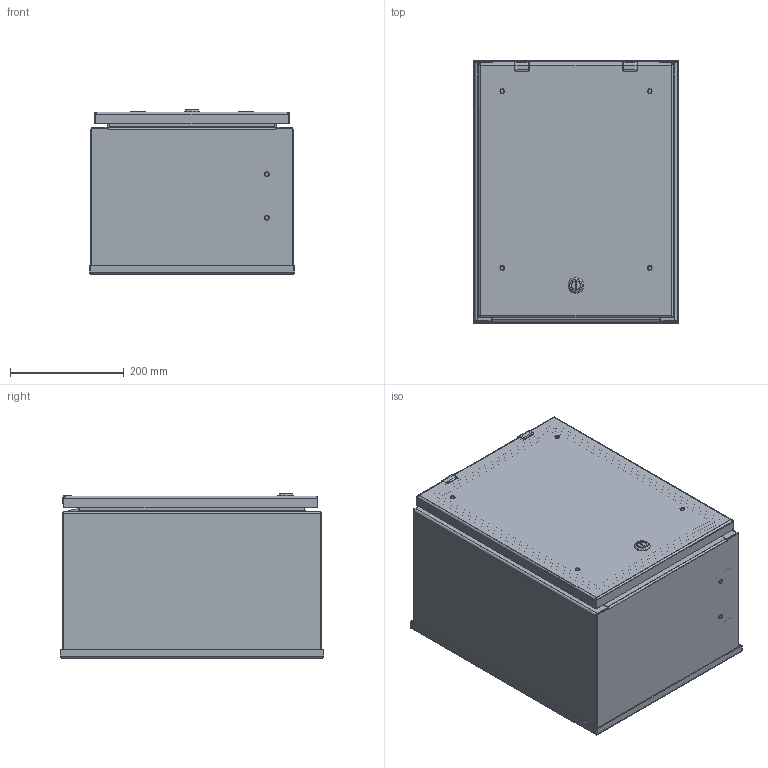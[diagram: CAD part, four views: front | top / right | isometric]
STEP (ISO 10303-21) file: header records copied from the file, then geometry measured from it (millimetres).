
FILE_DESCRIPTION((''),'2;1');
FILE_NAME('MODEL-364_ASM','2026-08-24T16:07:37',('richards'),('SAGINAW CONTROL & ENGINEERING'),'CREO PARAMETRIC BY PTC INC, 2021284','CREO PARAMETRIC BY PTC INC, 2021284','');
FILE_SCHEMA(('AUTOMOTIVE_DESIGN { 1 0 10303 214 1 1 1 1 }'));
Length unit declared in the file: inch
Products named in the file (33): MODEL-364-BDY; MODEL-364-R-SIDE; MODEL-364-L-SIDE; MODEL-364-R-DR; 103465; 100794_SHAFT; 100794_INSERT; 100794_CAM; 100794_NUT; 100794_SCREW; 100794_ASM; 126392; 126392_ASM; 126395; 101226; 101389; 102483; 102140; 132757; MODEL-364-PR-GSKT-R; 127573; 100012; 122255; 127497; 100882; MODEL-364-F-DR; MODEL-364-PR-GSKT-F; 100837; 125597; CH-ELJ_SUBPANEL; 102479; CH-ELJ_SUBPANEL-SUBASSEMBLY_ASM; MODEL-364_ASM
Assembly tree (80 placements, depth 3):
  MODEL-364_ASM
    MODEL-364-BDY
    MODEL-364-R-SIDE
    MODEL-364-L-SIDE
    MODEL-364-R-DR
    103465  x9
    100794_ASM
      100794_SHAFT
      100794_INSERT
      100794_CAM
      100794_NUT
      100794_SCREW
    126392_ASM  x2
      126392
    126395  x2
    101226  x2
    101389  x2
    102483  x6
    102140  x2
    132757  x2
    MODEL-364-PR-GSKT-R
    127573
    100012  x4
    122255
    127497  x2
    100882  x16
    MODEL-364-F-DR
    MODEL-364-PR-GSKT-F
    100837  x8
    125597
    CH-ELJ_SUBPANEL-SUBASSEMBLY_ASM
      CH-ELJ_SUBPANEL
      102479  x4
Bounding box: 362.46 x 464.06 x 289.44 mm (x, y, z)
Volume: 2301146.9 mm3; surface area: 2294089.1 mm2
Topology: 78 solids, 78 shells, 6306 faces, 16847 edges, 10666 vertices
Faces by surface type: bspline 2488, plane 2330, cylinder 1013, torus 245, cone 210, sphere 20
Entity records: 96372 total; most frequent: CARTESIAN_POINT 27692, ORIENTED_EDGE 9824, DIRECTION 9289, PRESENTATION_STYLE_ASSIGNMENT 5117, EDGE_CURVE 4912, STYLED_ITEM 4840, CURVE_STYLE 4750, AXIS2_PLACEMENT_3D 3351
